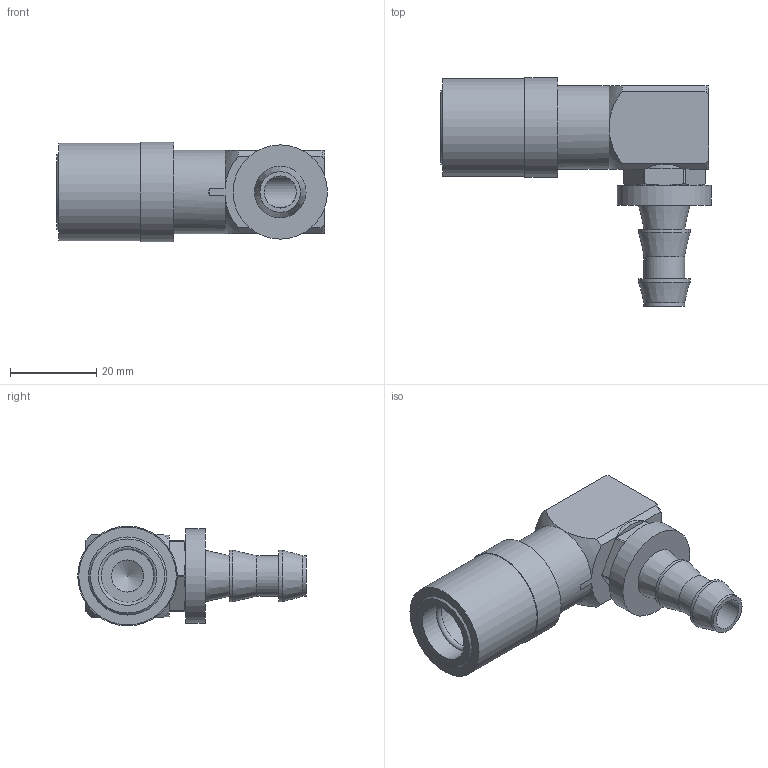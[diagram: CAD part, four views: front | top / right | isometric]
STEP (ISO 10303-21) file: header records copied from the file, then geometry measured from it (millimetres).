
FILE_DESCRIPTION(/* description */ ('STEP AP214'),/* implementation_level */ '2;1');
FILE_NAME(/* name */ 'JSL0316-SV',/* time_stamp */ '2024-12-19T09:18:54+01:00',/* author */ ('License CC BY-ND 4.0'),/* organization */ ('CADENAS'),/* preprocessor_version */ 'ST-DEVELOPER v19.3',/* originating_system */ 'PARTsolutions',/* authorisation */ ' ');
FILE_SCHEMA (('AUTOMOTIVE_DESIGN {1 0 10303 214 3 1 1}'));
Length unit declared in the file: inch
Products named in the file (1): JSL0316-SV
Bounding box: 62.73 x 52.93 x 23.06 mm (x, y, z)
Volume: 21809.9 mm3; surface area: 9695.8 mm2
Topology: 1 solids, 1 shells, 71 faces, 171 edges, 111 vertices
Faces by surface type: plane 34, cylinder 22, sphere 8, cone 6, torus 1
Full cylindrical faces by diameter (mm): 7.417 x1, 7.468 x1, 9.398 x3, 11.938 x2, 13.564 x2, 19.304 x1, 21.844 x1, 22.606 x1, 23.058 x1
Entity records: 2036 total; most frequent: CARTESIAN_POINT 384, DIRECTION 361, ORIENTED_EDGE 294, AXIS2_PLACEMENT_3D 150, EDGE_CURVE 147, VERTEX_POINT 108, FACE_BOUND 103, EDGE_LOOP 102
